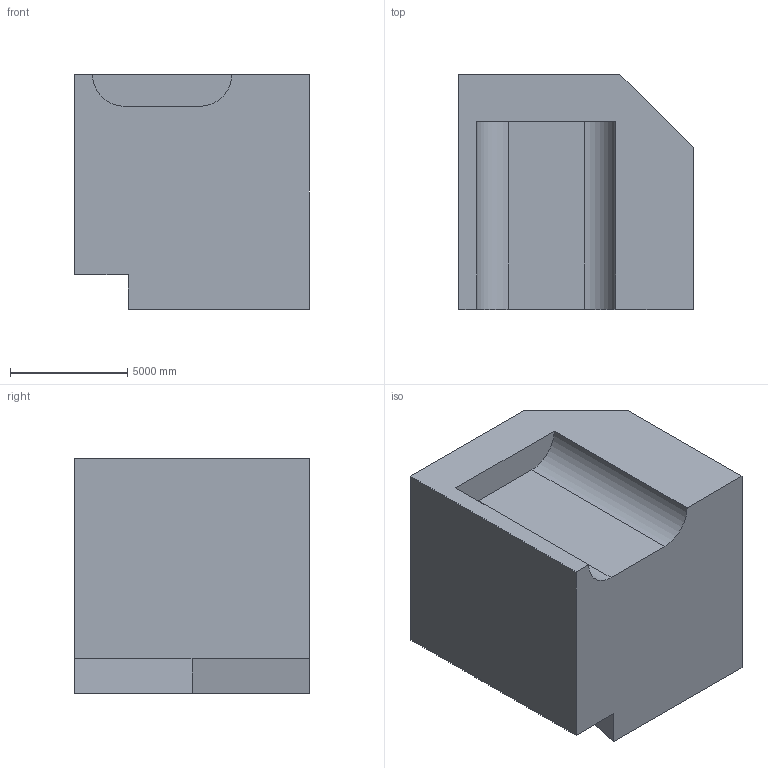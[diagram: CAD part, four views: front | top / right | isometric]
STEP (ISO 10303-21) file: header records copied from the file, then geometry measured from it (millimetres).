
FILE_DESCRIPTION (( 'STEP AP203' ), '1' );
FILE_NAME ('349.STEP', '2022-07-28T14:26:22', ( 'user' ), ( '' ), 'SwSTEP 2.0', 'SolidWorks 2021', '' );
FILE_SCHEMA (( 'CONFIG_CONTROL_DESIGN' ));
Length unit declared in the file: centimetre
Products named in the file (1): 349
Bounding box: 10000 x 10000 x 10000 mm (x, y, z)
Volume: 748234874684.1 mm3; surface area: 676191139.9 mm2
Topology: 1 solids, 1 shells, 17 faces, 42 edges, 28 vertices
Faces by surface type: plane 13, cylinder 4
Entity records: 581 total; most frequent: CARTESIAN_POINT 88, DIRECTION 86, ORIENTED_EDGE 84, EDGE_CURVE 42, LINE 34, VECTOR 34, VERTEX_POINT 28, AXIS2_PLACEMENT_3D 26
